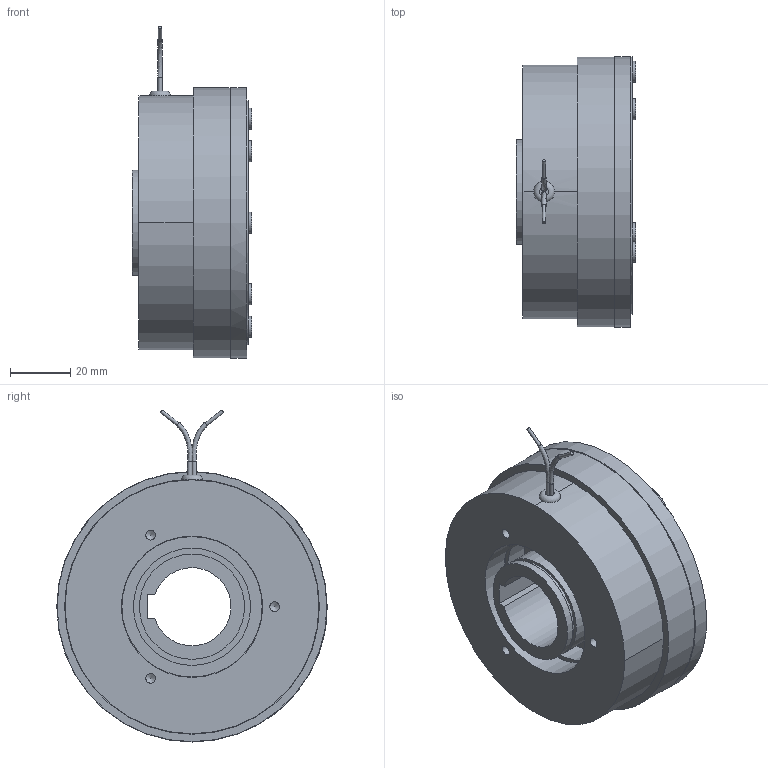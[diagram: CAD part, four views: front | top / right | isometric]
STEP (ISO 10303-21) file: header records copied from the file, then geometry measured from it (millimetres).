
FILE_DESCRIPTION(/* description */ (''),/* implementation_level */ '2;1');
FILE_NAME(/* name */ 'X:\INVENTOR\DISEGNI\08_Freni_Friz_Elettmag_Monodisco\08_26 EMSL_DF\EMSL_DF STEP\08_26_090_21 EMSL090_DF-BM@STEP.stp',/* time_stamp */ '2018-04-24T08:22:22+02:00',/* author */ ('stefano'),/* organization */ (''),/* preprocessor_version */ 'ST-DEVELOPER v17',/* originating_system */ 'Autodesk Inventor 2018',/* authorisation */ '');
FILE_SCHEMA (('AUTOMOTIVE_DESIGN { 1 0 10303 214 3 1 1 }'));
Length unit declared in the file: millimetre
Products named in the file (1): 08_26_090_21 EMSL090_DF-BM_Substitute_1
Bounding box: 39.7 x 90 x 110.47 mm (x, y, z)
Volume: 165970.2 mm3; surface area: 60055.8 mm2
Topology: 4 solids, 4 shells, 211 faces, 596 edges, 421 vertices
Faces by surface type: cylinder 136, plane 50, cone 22, bspline 2, torus 1
Full cylindrical faces by diameter (mm): 1.154 x2, 1.5 x7, 3.242 x3, 5.1 x9, 6 x1, 7 x6, 33 x1, 35 x2, 39 x1, 42 x1, 46.7 x1, 47 x2, 49.5 x1, 54 x1, 80 x1, 84.8 x1, 89.8 x1, 90 x1
Entity records: 7729 total; most frequent: CARTESIAN_POINT 1449, DIRECTION 1420, ORIENTED_EDGE 1188, AXIS2_PLACEMENT_3D 624, EDGE_CURVE 594, VERTEX_POINT 422, CIRCLE 414, EDGE_LOOP 293
